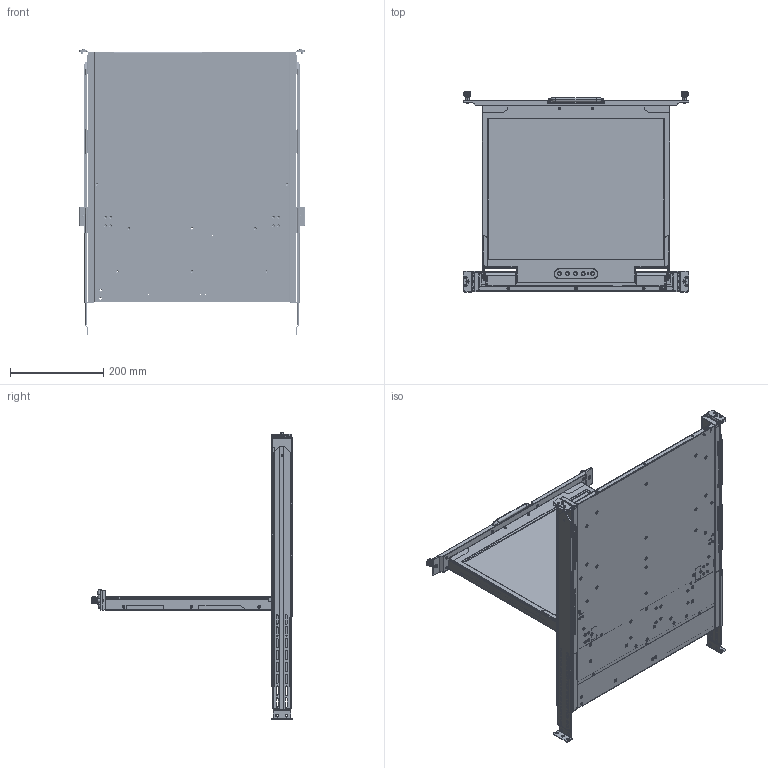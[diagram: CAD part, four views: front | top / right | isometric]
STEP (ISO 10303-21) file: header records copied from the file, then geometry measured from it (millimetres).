
FILE_DESCRIPTION((''),'2;1');
FILE_NAME('KVM-1701PD-M8','2021-07-22T21:04:14',('Administrator'),(''),'CREO PARAMETRIC BY PTC INC, 2019010','CREO PARAMETRIC BY PTC INC, 2019010','');
FILE_SCHEMA(('AP242_MANAGED_MODEL_BASED_3D_ENGINEERING_MIM_LF { 1 0 10303 442 1 1 4 }'));
Products named in the file (1): KVM-1701PD-M8
Bounding box: 482 x 428.6 x 613.5 mm (x, y, z)
Surface area: 2074167.6 mm2 (no closed solid volume)
Topology: 0 solids, 505 shells, 2604 faces, 12449 edges, 11546 vertices
Faces by surface type: plane 1450, cylinder 673, cone 371, torus 67, bspline 43
Entity records: 153198 total; most frequent: CARTESIAN_POINT 36990, DIRECTION 20440, ORIENTED_EDGE 14822, EDGE_CURVE 10984, VERTEX_POINT 8666, VECTOR 7620, LINE 7620, AXIS2_PLACEMENT_3D 6410
